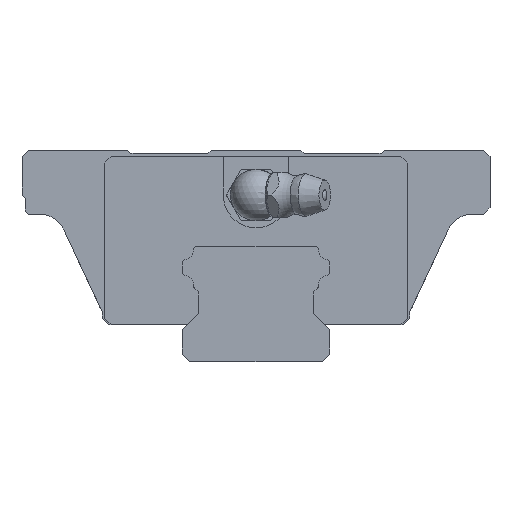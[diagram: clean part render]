
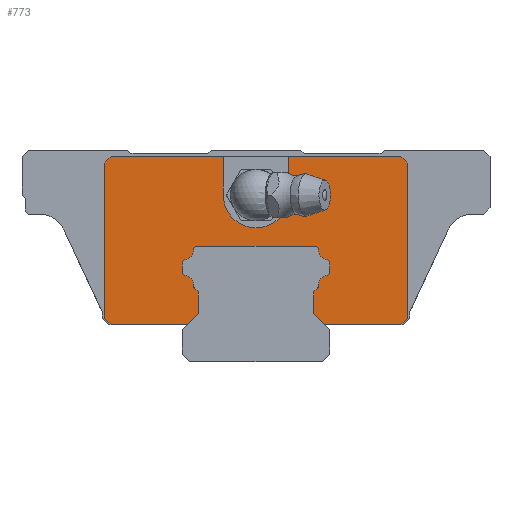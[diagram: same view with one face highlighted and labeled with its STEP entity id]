
A CAD part, front view. The second image highlights one B-rep face of the part: STEP entity #773.
In plain terms, the highlighted planar face has unit normal (0, -1, 0).
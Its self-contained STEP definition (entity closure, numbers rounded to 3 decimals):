
#552=CIRCLE('',#3855,0.5);
#554=CIRCLE('',#3858,1.7);
#556=CIRCLE('',#3861,0.5);
#558=CIRCLE('',#3868,0.5);
#560=CIRCLE('',#3871,1.7);
#562=CIRCLE('',#3874,0.5);
#564=CIRCLE('',#3878,0.5);
#566=CIRCLE('',#3881,1.7);
#568=CIRCLE('',#3884,0.5);
#570=CIRCLE('',#3888,0.5);
#572=CIRCLE('',#3891,1.7);
#574=CIRCLE('',#3894,0.5);
#589=CIRCLE('',#3949,5.1);
#773=ADVANCED_FACE('',(#1061),#922,.T.);
#922=PLANE('',#3950);
#1061=FACE_OUTER_BOUND('',#1262,.T.);
#1262=EDGE_LOOP('',(#1965,#1966,#1967,#1968,#1969,#1970,#1971,#1972,#1973,
#1974,#1975,#1976,#1977,#1978,#1979,#1980,#1981,#1982,#1983,#1984,#1985,
#1986,#1987,#1988,#1989,#1990,#1991,#1992,#1993,#1994,#1995,#1996,#1997,
#1998));
#1965=ORIENTED_EDGE('',*,*,#2935,.F.);
#1966=ORIENTED_EDGE('',*,*,#2894,.F.);
#1967=ORIENTED_EDGE('',*,*,#2891,.F.);
#1968=ORIENTED_EDGE('',*,*,#2888,.F.);
#1969=ORIENTED_EDGE('',*,*,#2885,.F.);
#1970=ORIENTED_EDGE('',*,*,#2882,.F.);
#1971=ORIENTED_EDGE('',*,*,#2879,.F.);
#1972=ORIENTED_EDGE('',*,*,#2933,.F.);
#1973=ORIENTED_EDGE('',*,*,#2931,.F.);
#1974=ORIENTED_EDGE('',*,*,#2928,.F.);
#1975=ORIENTED_EDGE('',*,*,#2925,.F.);
#1976=ORIENTED_EDGE('',*,*,#2922,.F.);
#1977=ORIENTED_EDGE('',*,*,#2919,.F.);
#1978=ORIENTED_EDGE('',*,*,#2916,.F.);
#1979=ORIENTED_EDGE('',*,*,#2913,.F.);
#1980=ORIENTED_EDGE('',*,*,#2910,.F.);
#1981=ORIENTED_EDGE('',*,*,#2907,.F.);
#1982=ORIENTED_EDGE('',*,*,#2904,.F.);
#1983=ORIENTED_EDGE('',*,*,#2901,.F.);
#1984=ORIENTED_EDGE('',*,*,#2898,.F.);
#1985=ORIENTED_EDGE('',*,*,#2937,.F.);
#1986=ORIENTED_EDGE('',*,*,#2835,.T.);
#1987=ORIENTED_EDGE('',*,*,#2959,.T.);
#1988=ORIENTED_EDGE('',*,*,#2956,.T.);
#1989=ORIENTED_EDGE('',*,*,#2961,.T.);
#1990=ORIENTED_EDGE('',*,*,#2967,.T.);
#1991=ORIENTED_EDGE('',*,*,#2977,.F.);
#1992=ORIENTED_EDGE('',*,*,#2978,.F.);
#1993=ORIENTED_EDGE('',*,*,#2979,.F.);
#1994=ORIENTED_EDGE('',*,*,#2963,.T.);
#1995=ORIENTED_EDGE('',*,*,#2968,.T.);
#1996=ORIENTED_EDGE('',*,*,#2952,.T.);
#1997=ORIENTED_EDGE('',*,*,#2958,.T.);
#1998=ORIENTED_EDGE('',*,*,#2825,.T.);
#2457=VERTEX_POINT('',#5601);
#2459=VERTEX_POINT('',#5604);
#2462=VERTEX_POINT('',#5613);
#2464=VERTEX_POINT('',#5619);
#2482=VERTEX_POINT('',#5703);
#2484=VERTEX_POINT('',#5707);
#2486=VERTEX_POINT('',#5712);
#2488=VERTEX_POINT('',#5718);
#2490=VERTEX_POINT('',#5724);
#2492=VERTEX_POINT('',#5730);
#2494=VERTEX_POINT('',#5736);
#2496=VERTEX_POINT('',#5742);
#2498=VERTEX_POINT('',#5746);
#2500=VERTEX_POINT('',#5751);
#2502=VERTEX_POINT('',#5757);
#2504=VERTEX_POINT('',#5763);
#2506=VERTEX_POINT('',#5769);
#2508=VERTEX_POINT('',#5775);
#2510=VERTEX_POINT('',#5781);
#2512=VERTEX_POINT('',#5787);
#2514=VERTEX_POINT('',#5793);
#2516=VERTEX_POINT('',#5799);
#2518=VERTEX_POINT('',#5805);
#2520=VERTEX_POINT('',#5811);
#2526=VERTEX_POINT('',#5863);
#2527=VERTEX_POINT('',#5865);
#2529=VERTEX_POINT('',#5871);
#2530=VERTEX_POINT('',#5873);
#2531=VERTEX_POINT('',#5881);
#2532=VERTEX_POINT('',#5885);
#2533=VERTEX_POINT('',#5887);
#2536=VERTEX_POINT('',#5893);
#2545=VERTEX_POINT('',#5925);
#2546=VERTEX_POINT('',#5927);
#2825=EDGE_CURVE('',#2459,#2457,#3245,.T.);
#2835=EDGE_CURVE('',#2462,#2464,#3255,.T.);
#2879=EDGE_CURVE('',#2484,#2482,#3287,.T.);
#2882=EDGE_CURVE('',#2482,#2486,#552,.T.);
#2885=EDGE_CURVE('',#2486,#2488,#554,.T.);
#2888=EDGE_CURVE('',#2488,#2490,#556,.T.);
#2891=EDGE_CURVE('',#2490,#2492,#3293,.T.);
#2894=EDGE_CURVE('',#2492,#2494,#3296,.T.);
#2898=EDGE_CURVE('',#2498,#2496,#3300,.T.);
#2901=EDGE_CURVE('',#2496,#2500,#3303,.T.);
#2904=EDGE_CURVE('',#2500,#2502,#558,.T.);
#2907=EDGE_CURVE('',#2502,#2504,#560,.T.);
#2910=EDGE_CURVE('',#2504,#2506,#562,.T.);
#2913=EDGE_CURVE('',#2506,#2508,#3309,.T.);
#2916=EDGE_CURVE('',#2508,#2510,#564,.T.);
#2919=EDGE_CURVE('',#2510,#2512,#566,.T.);
#2922=EDGE_CURVE('',#2512,#2514,#568,.T.);
#2925=EDGE_CURVE('',#2514,#2516,#3315,.T.);
#2928=EDGE_CURVE('',#2516,#2518,#570,.T.);
#2931=EDGE_CURVE('',#2518,#2520,#572,.T.);
#2933=EDGE_CURVE('',#2520,#2484,#574,.T.);
#2935=EDGE_CURVE('',#2494,#2457,#3319,.T.);
#2937=EDGE_CURVE('',#2462,#2498,#3321,.T.);
#2952=EDGE_CURVE('',#2527,#2526,#3331,.T.);
#2956=EDGE_CURVE('',#2530,#2529,#3334,.T.);
#2958=EDGE_CURVE('',#2526,#2459,#3336,.T.);
#2959=EDGE_CURVE('',#2464,#2530,#3337,.T.);
#2961=EDGE_CURVE('',#2529,#2531,#3339,.T.);
#2963=EDGE_CURVE('',#2533,#2532,#3341,.T.);
#2967=EDGE_CURVE('',#2531,#2536,#3345,.T.);
#2968=EDGE_CURVE('',#2532,#2527,#3346,.T.);
#2977=EDGE_CURVE('',#2545,#2536,#3347,.T.);
#2978=EDGE_CURVE('',#2546,#2545,#589,.T.);
#2979=EDGE_CURVE('',#2533,#2546,#3348,.T.);
#3245=LINE('',#5603,#3555);
#3255=LINE('',#5620,#3565);
#3287=LINE('',#5708,#3597);
#3293=LINE('',#5732,#3603);
#3296=LINE('',#5738,#3606);
#3300=LINE('',#5747,#3610);
#3303=LINE('',#5753,#3613);
#3309=LINE('',#5777,#3619);
#3315=LINE('',#5801,#3625);
#3319=LINE('',#5819,#3629);
#3321=LINE('',#5822,#3631);
#3331=LINE('',#5864,#3641);
#3334=LINE('',#5872,#3644);
#3336=LINE('',#5876,#3646);
#3337=LINE('',#5878,#3647);
#3339=LINE('',#5882,#3649);
#3341=LINE('',#5886,#3651);
#3345=LINE('',#5894,#3655);
#3346=LINE('',#5896,#3656);
#3347=LINE('',#5924,#3657);
#3348=LINE('',#5928,#3658);
#3555=VECTOR('',#4361,1.);
#3565=VECTOR('',#4373,1.);
#3597=VECTOR('',#4477,1.);
#3603=VECTOR('',#4503,1.);
#3606=VECTOR('',#4508,1.);
#3610=VECTOR('',#4514,1.);
#3613=VECTOR('',#4519,1.);
#3619=VECTOR('',#4545,1.);
#3625=VECTOR('',#4571,1.);
#3629=VECTOR('',#4595,1.);
#3631=VECTOR('',#4599,1.);
#3641=VECTOR('',#4661,1.);
#3644=VECTOR('',#4668,1.);
#3646=VECTOR('',#4672,1.);
#3647=VECTOR('',#4675,1.);
#3649=VECTOR('',#4679,1.);
#3651=VECTOR('',#4683,1.);
#3655=VECTOR('',#4687,1.);
#3656=VECTOR('',#4690,1.);
#3657=VECTOR('',#4729,1.);
#3658=VECTOR('',#4732,1.);
#3855=AXIS2_PLACEMENT_3D('',#5714,#4483,#4484);
#3858=AXIS2_PLACEMENT_3D('',#5720,#4490,#4491);
#3861=AXIS2_PLACEMENT_3D('',#5726,#4497,#4498);
#3868=AXIS2_PLACEMENT_3D('',#5759,#4525,#4526);
#3871=AXIS2_PLACEMENT_3D('',#5765,#4532,#4533);
#3874=AXIS2_PLACEMENT_3D('',#5771,#4539,#4540);
#3878=AXIS2_PLACEMENT_3D('',#5783,#4551,#4552);
#3881=AXIS2_PLACEMENT_3D('',#5789,#4558,#4559);
#3884=AXIS2_PLACEMENT_3D('',#5795,#4565,#4566);
#3888=AXIS2_PLACEMENT_3D('',#5807,#4577,#4578);
#3891=AXIS2_PLACEMENT_3D('',#5813,#4584,#4585);
#3894=AXIS2_PLACEMENT_3D('',#5816,#4590,#4591);
#3949=AXIS2_PLACEMENT_3D('',#5926,#4730,#4731);
#3950=AXIS2_PLACEMENT_3D('',#5929,#4733,#4734);
#4361=DIRECTION('',(1.,0.,0.));
#4373=DIRECTION('',(1.,0.,0.));
#4477=DIRECTION('',(0.,0.,-1.));
#4483=DIRECTION('',(0.,-1.,0.));
#4484=DIRECTION('',(0.,0.,-1.));
#4490=DIRECTION('',(0.,1.,0.));
#4491=DIRECTION('',(0.,0.,-1.));
#4497=DIRECTION('',(0.,-1.,0.));
#4498=DIRECTION('',(0.,0.,-1.));
#4503=DIRECTION('',(0.707,0.,-0.707));
#4508=DIRECTION('',(0.,0.,-1.));
#4514=DIRECTION('',(0.,0.,1.));
#4519=DIRECTION('',(0.707,0.,0.707));
#4525=DIRECTION('',(0.,-1.,0.));
#4526=DIRECTION('',(0.,0.,-1.));
#4532=DIRECTION('',(0.,1.,0.));
#4533=DIRECTION('',(0.,0.,-1.));
#4539=DIRECTION('',(0.,-1.,0.));
#4540=DIRECTION('',(0.,0.,-1.));
#4545=DIRECTION('',(0.,0.,1.));
#4551=DIRECTION('',(0.,-1.,0.));
#4552=DIRECTION('',(0.,0.,-1.));
#4558=DIRECTION('',(0.,1.,0.));
#4559=DIRECTION('',(0.,0.,-1.));
#4565=DIRECTION('',(0.,-1.,0.));
#4566=DIRECTION('',(0.,0.,-1.));
#4571=DIRECTION('',(-1.,0.,0.));
#4577=DIRECTION('',(0.,-1.,0.));
#4578=DIRECTION('',(0.,0.,-1.));
#4584=DIRECTION('',(0.,1.,0.));
#4585=DIRECTION('',(0.,0.,-1.));
#4590=DIRECTION('',(0.,-1.,0.));
#4591=DIRECTION('',(0.,0.,-1.));
#4595=DIRECTION('',(-0.707,0.,-0.707));
#4599=DIRECTION('',(-0.707,0.,0.707));
#4661=DIRECTION('',(0.,0.,-1.));
#4668=DIRECTION('',(0.,0.,1.));
#4672=DIRECTION('',(0.707,0.,-0.707));
#4675=DIRECTION('',(0.707,0.,0.707));
#4679=DIRECTION('',(-0.707,0.,0.707));
#4683=DIRECTION('',(-1.,0.,0.));
#4687=DIRECTION('',(-1.,0.,0.));
#4690=DIRECTION('',(-0.707,0.,-0.707));
#4729=DIRECTION('',(0.,0.,1.));
#4730=DIRECTION('',(0.,-1.,0.));
#4731=DIRECTION('',(1.,0.,0.));
#4732=DIRECTION('',(0.,0.,-1.));
#4733=DIRECTION('',(0.,-1.,0.));
#4734=DIRECTION('',(0.,0.,-1.));
#5601=CARTESIAN_POINT('',(-10.7,-10.5,5.8));
#5603=CARTESIAN_POINT('',(-22.6,-10.5,5.8));
#5604=CARTESIAN_POINT('',(-22.6,-10.5,5.8));
#5613=CARTESIAN_POINT('',(10.7,-10.5,5.8));
#5619=CARTESIAN_POINT('',(22.6,-10.5,5.8));
#5620=CARTESIAN_POINT('',(-22.6,-10.5,5.8));
#5703=CARTESIAN_POINT('',(-11.5,-10.5,13.995));
#5707=CARTESIAN_POINT('',(-11.5,-10.5,15.412));
#5708=CARTESIAN_POINT('',(-11.5,-10.5,26.));
#5712=CARTESIAN_POINT('',(-11.097,-10.5,13.504));
#5714=CARTESIAN_POINT('',(-11.,-10.5,13.995));
#5718=CARTESIAN_POINT('',(-9.726,-10.5,11.834));
#5720=CARTESIAN_POINT('',(-11.426,-10.5,11.836));
#5724=CARTESIAN_POINT('',(-9.58,-10.5,11.48));
#5726=CARTESIAN_POINT('',(-9.226,-10.5,11.833));
#5730=CARTESIAN_POINT('',(-9.,-10.5,10.9));
#5732=CARTESIAN_POINT('',(-12.05,-10.5,13.95));
#5736=CARTESIAN_POINT('',(-9.,-10.5,7.5));
#5738=CARTESIAN_POINT('',(-9.,-10.5,26.));
#5742=CARTESIAN_POINT('',(9.,-10.5,10.9));
#5746=CARTESIAN_POINT('',(9.,-10.5,7.5));
#5747=CARTESIAN_POINT('',(9.,-10.5,26.));
#5751=CARTESIAN_POINT('',(9.58,-10.5,11.48));
#5753=CARTESIAN_POINT('',(12.05,-10.5,13.95));
#5757=CARTESIAN_POINT('',(9.726,-10.5,11.834));
#5759=CARTESIAN_POINT('',(9.226,-10.5,11.833));
#5763=CARTESIAN_POINT('',(11.097,-10.5,13.504));
#5765=CARTESIAN_POINT('',(11.426,-10.5,11.836));
#5769=CARTESIAN_POINT('',(11.5,-10.5,13.995));
#5771=CARTESIAN_POINT('',(11.,-10.5,13.995));
#5775=CARTESIAN_POINT('',(11.5,-10.5,15.412));
#5777=CARTESIAN_POINT('',(11.5,-10.5,26.));
#5781=CARTESIAN_POINT('',(11.097,-10.5,15.902));
#5783=CARTESIAN_POINT('',(11.,-10.5,15.412));
#5787=CARTESIAN_POINT('',(9.727,-10.5,17.516));
#5789=CARTESIAN_POINT('',(11.426,-10.5,17.57));
#5793=CARTESIAN_POINT('',(9.227,-10.5,18.));
#5795=CARTESIAN_POINT('',(9.227,-10.5,17.5));
#5799=CARTESIAN_POINT('',(-9.227,-10.5,18.));
#5801=CARTESIAN_POINT('',(0.,-10.5,18.));
#5805=CARTESIAN_POINT('',(-9.727,-10.5,17.516));
#5807=CARTESIAN_POINT('',(-9.227,-10.5,17.5));
#5811=CARTESIAN_POINT('',(-11.097,-10.5,15.902));
#5813=CARTESIAN_POINT('',(-11.426,-10.5,17.57));
#5816=CARTESIAN_POINT('',(-11.,-10.5,15.412));
#5819=CARTESIAN_POINT('',(4.75,-10.5,21.25));
#5822=CARTESIAN_POINT('',(-4.75,-10.5,21.25));
#5863=CARTESIAN_POINT('',(-23.6,-10.5,6.8));
#5864=CARTESIAN_POINT('',(-23.6,-10.5,31.));
#5865=CARTESIAN_POINT('',(-23.6,-10.5,31.));
#5871=CARTESIAN_POINT('',(23.6,-10.5,31.));
#5872=CARTESIAN_POINT('',(23.6,-10.5,6.8));
#5873=CARTESIAN_POINT('',(23.6,-10.5,6.8));
#5876=CARTESIAN_POINT('',(-23.6,-10.5,6.8));
#5878=CARTESIAN_POINT('',(22.6,-10.5,5.8));
#5881=CARTESIAN_POINT('',(22.6,-10.5,32.));
#5882=CARTESIAN_POINT('',(23.6,-10.5,31.));
#5885=CARTESIAN_POINT('',(-22.6,-10.5,32.));
#5886=CARTESIAN_POINT('',(22.6,-10.5,32.));
#5887=CARTESIAN_POINT('',(-5.1,-10.5,32.));
#5893=CARTESIAN_POINT('',(5.1,-10.5,32.));
#5894=CARTESIAN_POINT('',(22.6,-10.5,32.));
#5896=CARTESIAN_POINT('',(-22.6,-10.5,32.));
#5924=CARTESIAN_POINT('',(5.1,-10.5,26.));
#5925=CARTESIAN_POINT('',(5.1,-10.5,26.));
#5926=CARTESIAN_POINT('',(0.,-10.5,26.));
#5927=CARTESIAN_POINT('',(-5.1,-10.5,26.));
#5928=CARTESIAN_POINT('',(-5.1,-10.5,32.));
#5929=CARTESIAN_POINT('',(0.,-10.5,26.));
